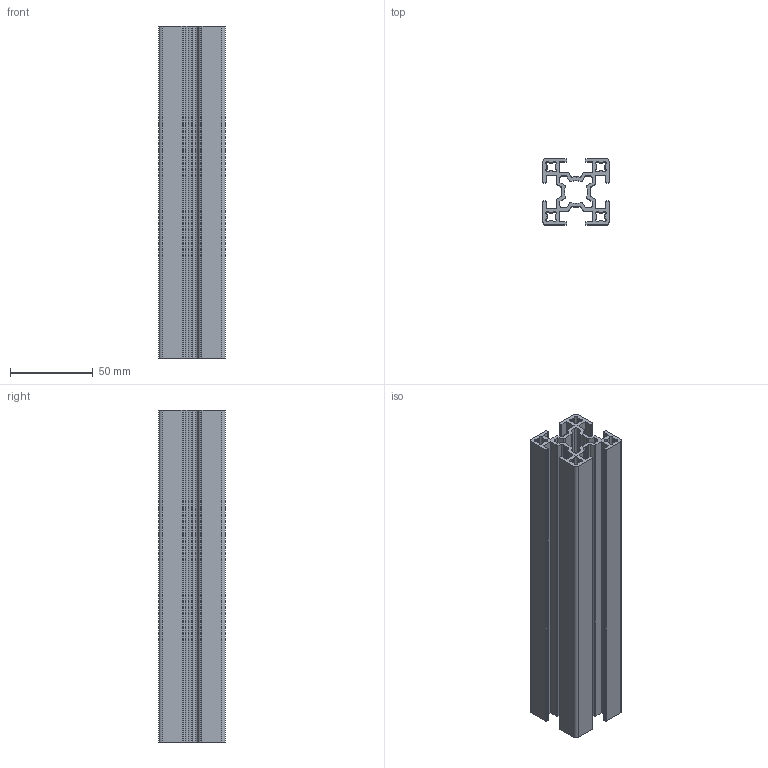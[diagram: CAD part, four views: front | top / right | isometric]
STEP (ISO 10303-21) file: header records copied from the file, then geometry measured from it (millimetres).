
FILE_DESCRIPTION((''),'2;1');
FILE_NAME('X:\Ritarkiv\STEP-Carryline Standarddelar\100-1010.stp','2009-11-09T07:45:26',('marcus'),(''),'Autodesk Inventor 2010','Autodesk Inventor 2010','');
FILE_SCHEMA(('AUTOMOTIVE_DESIGN { 1 0 10303 214 1 1 1 1 }'));
Length unit declared in the file: millimetre
Products named in the file (2): Assembly1; 100-1010-01
Assembly tree (1 placements, depth 2):
  Assembly1
    100-1010-01
Bounding box: 40 x 40 x 200 mm (x, y, z)
Volume: 107304.4 mm3; surface area: 100179.1 mm2
Topology: 1 solids, 1 shells, 230 faces, 684 edges, 456 vertices
Faces by surface type: cylinder 124, plane 106
Entity records: 7868 total; most frequent: DIRECTION 1398, CARTESIAN_POINT 1373, ORIENTED_EDGE 1368, EDGE_CURVE 684, AXIS2_PLACEMENT_3D 481, VERTEX_POINT 456, VECTOR 436, LINE 436
